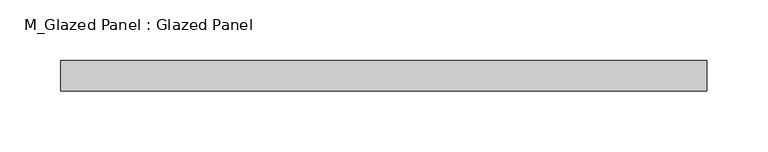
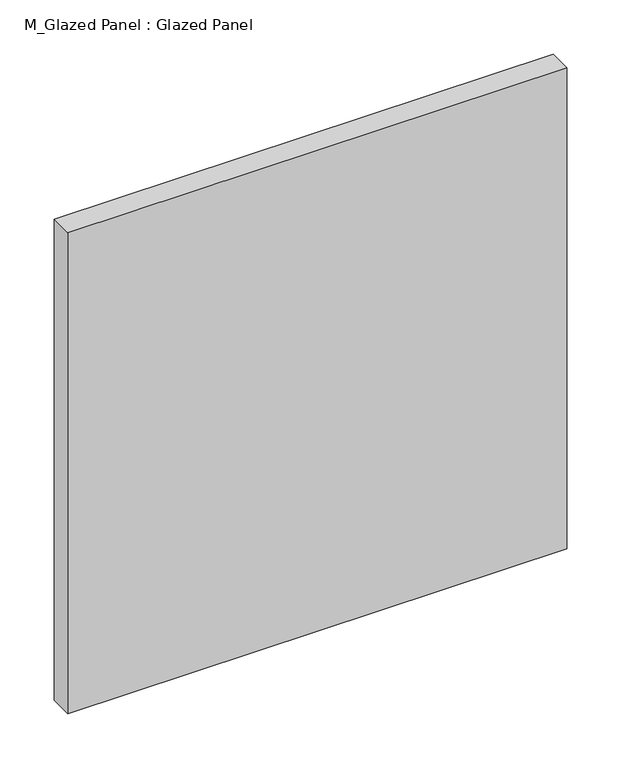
"""IFC4 building model written with IfcOpenShell, lengths in millimetres: plate geometry, M_Glazed Panel : Glazed Panel."""

from ifc_helpers import new_model, si_unit, origin, origin_with_axes, place, context, project, spatial, polyline, outline, extrude, source, transform, mapped, element, save


def m_glazed_panel_glazed_panel_67c75c62(model_context):
    return source(origin(), model_context, "Body", "SweptSolid", [
        extrude(outline(polyline([(265.0, 38.5), (-265.0, 38.5), (-265.0, 63.5), (265.0, 63.5), (265.0, 38.5)])), origin_with_axes(), (0.0, 0.0, 1.0), 540.1015074),
    ])


if __name__ == "__main__":
    model = new_model("IFC4")
    model_context = context("Model", 3, world=origin())
    ifc_project = project(units=[si_unit("LENGTHUNIT", "METRE", prefix="MILLI")], contexts=[model_context])
    site = spatial("IfcSite", under=ifc_project)
    building = spatial("IfcBuilding", under=site)
    placement = place(None, origin())
    m_glazed_panel_glazed_panel_shape = m_glazed_panel_glazed_panel_67c75c62(model_context)
    element("IfcPlate", 1, ObjectType="M_Glazed Panel : Glazed Panel", at=placement, inside=building, context=model_context, shape_type="MappedRepresentation", body=[
        mapped(m_glazed_panel_glazed_panel_shape, transform((0.0, 0.0, 0.0), x_axis=(1.0, 0.0, 0.0), y_axis=(0.0, 1.0, 0.0), z_axis=(0.0, 0.0, 1.0))),
    ])
    save(model, "model.ifc")
